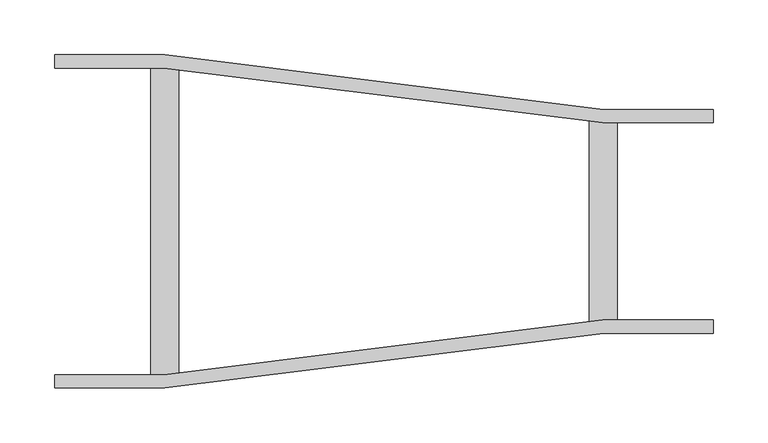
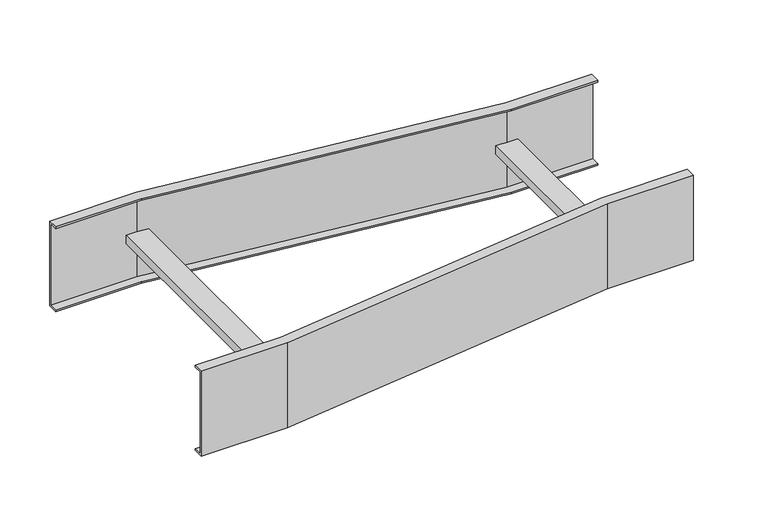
"""IFC4 building model written with IfcOpenShell, lengths in millimetres: cable carrier fitting geometry, BAKS_LDLS_CONN_Univarsal connector reduction_LUS : LUS_H100."""

from ifc_helpers import new_model, si_unit, frame, origin, place, context, project, spatial, polyline, outline, extrude, faceted_brep, source, transform, mapped, element, save


def cable_carrier_fitting_b442654d(model_context):
    return source(origin(), model_context, "Body", "SolidModel", [
        faceted_brep([(0.0, 140.0, -52.0), (0.0, 140.0, -50.0), (0.0, 150.0, -50.0), (0.0, 150.0, 50.0), (0.0, 140.0, 50.0), (0.0, 140.0, 52.0), (0.0, 152.0, 52.0), (0.0, 152.0, -52.0), (600.0, 90.0, -52.0), (600.0, 102.0, -52.0), (600.0, 102.0, 52.0), (600.0, 90.0, 52.0), (600.0, 90.0, 50.0), (600.0, 100.0, 50.0), (600.0, 100.0, -50.0), (600.0, 90.0, -50.0), (112.7, 148.4125, -5.0), (112.7, 148.4125, 5.0), (112.7, -148.4125, 5.0), (112.7, -148.4125, -5.0), (87.3, -150.0, -5.0), (87.3, 150.0, -5.0), (100.0, 150.0, -5.0), (100.0, -150.0, -5.0), (87.3, -150.0, 5.0), (87.3, 150.0, 5.0), (100.0, -150.0, 5.0), (100.0, 150.0, 5.0), (0.0, -140.0, 52.0), (0.0, -140.0, 50.0), (0.0, -150.0, 50.0), (0.0, -150.0, -50.0), (0.0, -140.0, -50.0), (0.0, -140.0, -52.0), (0.0, -152.0, -52.0), (0.0, -152.0, 52.0), (600.0, -90.0, 52.0), (600.0, -102.0, 52.0), (600.0, -102.0, -52.0), (600.0, -90.0, -52.0), (600.0, -90.0, -50.0), (600.0, -100.0, -50.0), (600.0, -100.0, 50.0), (600.0, -90.0, 50.0), (99.3774225, 140.0, -52.0), (99.3774225, 140.0, -50.0), (499.3774225, 90.0, -50.0), (500.0, 100.0, -50.0), (100.0, 150.0, -50.0), (100.0, 150.0, 50.0), (500.0, 100.0, 50.0), (499.3774225, 90.0, 50.0), (99.3774225, 140.0, 50.0), (99.3774225, 140.0, 52.0), (499.3774225, 90.0, 52.0), (500.1245155, 102.0, 52.0), (100.1245155, 152.0, 52.0), (100.1245155, 152.0, -52.0), (500.1245155, 102.0, -52.0), (499.3774225, 90.0, -52.0), (99.3774225, -140.0, 52.0), (99.3774225, -140.0, 50.0), (499.3774225, -90.0, 50.0), (500.0, -100.0, 50.0), (100.0, -150.0, 50.0), (100.0, -150.0, -50.0), (500.0, -100.0, -50.0), (499.3774225, -90.0, -50.0), (99.3774225, -140.0, -50.0), (99.3774225, -140.0, -52.0), (499.3774225, -90.0, -52.0), (500.1245155, -102.0, -52.0), (100.1245155, -152.0, -52.0), (100.1245155, -152.0, 52.0), (500.1245155, -102.0, 52.0), (499.3774225, -90.0, 52.0)], [[[0, 1, 2, 3, 4, 5, 6, 7]], [[8, 9, 10, 11, 12, 13, 14, 15]], [[16, 17, 18, 19]], [[20, 21, 22, 16, 19, 23]], [[21, 20, 24, 25]], [[25, 24, 26, 18, 17, 27]], [[28, 29, 30, 31, 32, 33, 34, 35]], [[36, 37, 38, 39, 40, 41, 42, 43]], [[1, 0, 44, 45]], [[2, 1, 45, 46, 15, 14, 47, 48]], [[3, 2, 48, 22, 21, 25, 27, 49]], [[4, 3, 49, 50, 13, 12, 51, 52]], [[5, 4, 52, 53]], [[6, 5, 53, 54, 11, 10, 55, 56]], [[7, 6, 56, 57]], [[0, 7, 57, 58, 9, 8, 59, 44]], [[45, 44, 59, 46]], [[48, 47, 50, 49, 27, 17, 16, 22]], [[52, 51, 54, 53]], [[56, 55, 58, 57]], [[8, 15, 46, 59]], [[14, 13, 50, 47]], [[12, 11, 54, 51]], [[10, 9, 58, 55]], [[29, 28, 60, 61]], [[30, 29, 61, 62, 43, 42, 63, 64]], [[31, 30, 64, 26, 24, 20, 23, 65]], [[32, 31, 65, 66, 41, 40, 67, 68]], [[33, 32, 68, 69]], [[34, 33, 69, 70, 39, 38, 71, 72]], [[35, 34, 72, 73]], [[28, 35, 73, 74, 37, 36, 75, 60]], [[61, 60, 75, 62]], [[64, 63, 66, 65, 23, 19, 18, 26]], [[68, 67, 70, 69]], [[72, 71, 74, 73]], [[36, 43, 62, 75]], [[42, 41, 66, 63]], [[40, 39, 70, 67]], [[38, 37, 74, 71]]]),
        extrude(outline(polyline([(487.3, 100.0), (512.7, 100.0), (512.7, -100.0), (487.3, -100.0), (487.3, 100.0)])), frame((0.0, 0.0, -5.0), z_axis=(0.0, 0.0, 1.0), x_axis=(1.0, 0.0, 0.0)), (0.0, 0.0, 1.0), 10.0),
    ])


if __name__ == "__main__":
    model = new_model("IFC4")
    model_context = context("Model", 3, world=origin())
    ifc_project = project(units=[si_unit("LENGTHUNIT", "METRE", prefix="MILLI")], contexts=[model_context])
    site = spatial("IfcSite", under=ifc_project)
    building = spatial("IfcBuilding", under=site)
    placement = place(None, origin())
    cable_carrier_fitting_shape = cable_carrier_fitting_b442654d(model_context)
    element("IfcCableCarrierFitting", 1, ObjectType="BAKS_LDLS_CONN_Univarsal connector reduction_LUS : LUS_H100", at=placement, inside=building, context=model_context, shape_type="MappedRepresentation", body=[
        mapped(cable_carrier_fitting_shape, transform((0.0, 0.0, 0.0), x_axis=(1.0, 0.0, 0.0), y_axis=(0.0, 1.0, 0.0), z_axis=(0.0, 0.0, 1.0))),
    ])
    save(model, "model.ifc")
